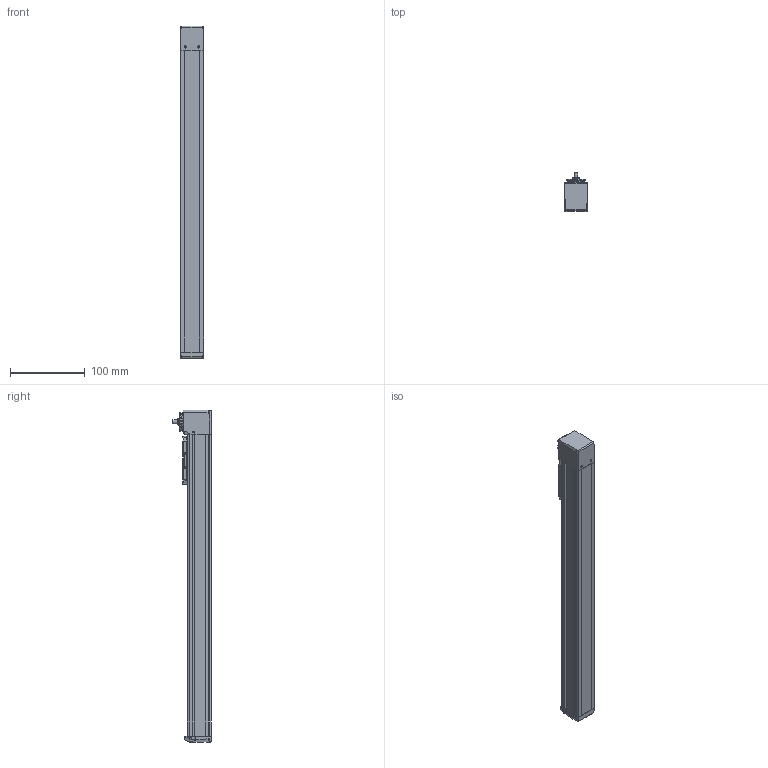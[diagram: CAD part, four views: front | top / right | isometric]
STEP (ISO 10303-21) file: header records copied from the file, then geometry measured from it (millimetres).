
FILE_DESCRIPTION(/* description */ ('STEP AP214'),/* implementation_level */ '2;1');
FILE_NAME(/* name */ 'MGTB 32 300(0)',/* time_stamp */ '2023-04-17T13:33:58+02:00',/* author */ ('License CC BY-ND 4.0'),/* organization */ ('CADENAS'),/* preprocessor_version */ 'ST-DEVELOPER v19.3',/* originating_system */ 'PARTsolutions',/* authorisation */ ' ');
FILE_SCHEMA (('AUTOMOTIVE_DESIGN {1 0 10303 214 3 1 1}'));
Length unit declared in the file: millimetre
Products named in the file (6): MGTB 32 300(0); MGTB 32 300_protection_strip; MGTB 32_carriage; MGTB 32_end_block; MGTB 32 300_profile; MGTB 32_drive_block
Assembly tree (5 placements, depth 2):
  MGTB 32 300(0)
    MGTB 32 300_protection_strip
    MGTB 32_carriage
    MGTB 32_end_block
    MGTB 32 300_profile
    MGTB 32_drive_block
Bounding box: 32 x 51.75 x 444.75 mm (x, y, z)
Volume: 432955.9 mm3; surface area: 107039.4 mm2
Topology: 5 solids, 5 shells, 664 faces, 1755 edges, 1129 vertices
Faces by surface type: plane 316, cylinder 171, cone 90, bspline 60, torus 25, sphere 2
Full cylindrical faces by diameter (mm): 1.155 x1, 1.567 x4, 1.755 x4, 1.8 x2, 2 x2, 2.3 x4, 2.459 x8, 2.46 x4, 2.5 x11, 3 x1, 3.8 x4, 4.5 x4, 5 x3, 7 x1, 7.5 x1, 9.6 x1, 19.5 x1, 25 x2
Entity records: 24513 total; most frequent: CARTESIAN_POINT 4239, DIRECTION 3359, ORIENTED_EDGE 3170, EDGE_CURVE 1585, AXIS2_PLACEMENT_3D 1204, VERTEX_POINT 1116, LINE 951, VECTOR 951
